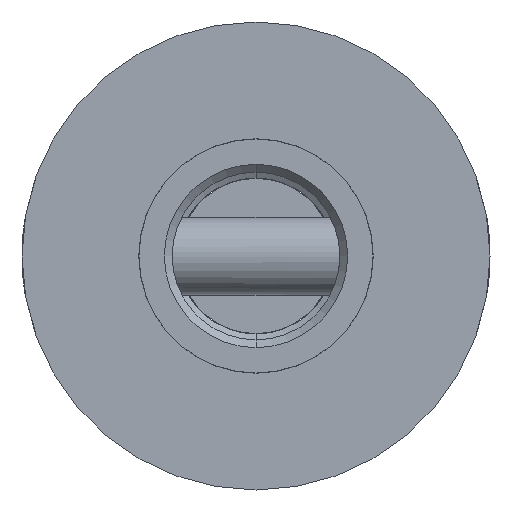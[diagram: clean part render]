
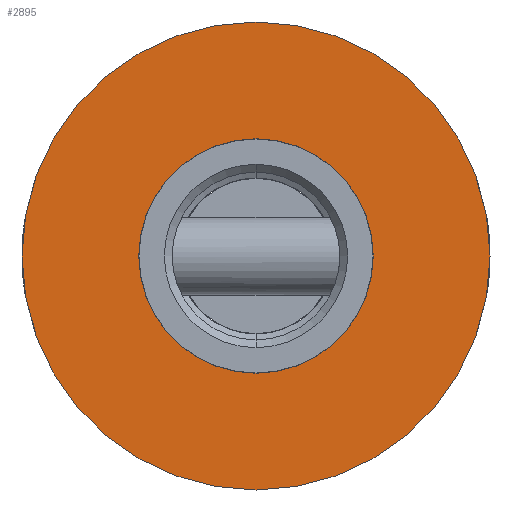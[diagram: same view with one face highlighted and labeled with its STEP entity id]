
A CAD part, front view. The second image highlights one B-rep face of the part: STEP entity #2895.
In plain terms, the highlighted planar face has unit normal (0, -1, 0).
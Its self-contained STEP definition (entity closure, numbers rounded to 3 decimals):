
#44 = CIRCLE ( 'NONE', #2857, 6. ) ;
#54 = CIRCLE ( 'NONE', #3059, 6. ) ;
#87 = VERTEX_POINT ( 'NONE', #462 ) ;
#186 = FACE_OUTER_BOUND ( 'NONE', #778, .T. ) ;
#393 = VERTEX_POINT ( 'NONE', #1814 ) ;
#450 = AXIS2_PLACEMENT_3D ( 'NONE', #1406, #1389, #1137 ) ;
#462 = CARTESIAN_POINT ( 'NONE',  ( 0., -300., -3.005 ) ) ;
#591 = AXIS2_PLACEMENT_3D ( 'NONE', #1711, #2218, #1671 ) ;
#689 = EDGE_LOOP ( 'NONE', ( #1764, #1804 ) ) ;
#778 = EDGE_LOOP ( 'NONE', ( #1686, #1604 ) ) ;
#975 = CARTESIAN_POINT ( 'NONE',  ( 0., -300., 3.005 ) ) ;
#1137 = DIRECTION ( 'NONE',  ( 0., 0., -1. ) ) ;
#1268 = VERTEX_POINT ( 'NONE', #1839 ) ;
#1389 = DIRECTION ( 'NONE',  ( 0., -1., 0. ) ) ;
#1406 = CARTESIAN_POINT ( 'NONE',  ( 0., -300., 0. ) ) ;
#1414 = FACE_BOUND ( 'NONE', #689, .T. ) ;
#1604 = ORIENTED_EDGE ( 'NONE', *, *, #2873, .T. ) ;
#1671 = DIRECTION ( 'NONE',  ( 0., 0., -1. ) ) ;
#1686 = ORIENTED_EDGE ( 'NONE', *, *, #2554, .T. ) ;
#1687 = PLANE ( 'NONE',  #591 ) ;
#1711 = CARTESIAN_POINT ( 'NONE',  ( 0., -300., 0. ) ) ;
#1764 = ORIENTED_EDGE ( 'NONE', *, *, #2334, .F. ) ;
#1802 = CIRCLE ( 'NONE', #2209, 3.005 ) ;
#1804 = ORIENTED_EDGE ( 'NONE', *, *, #2720, .F. ) ;
#1807 = CARTESIAN_POINT ( 'NONE',  ( 0., -300., 0. ) ) ;
#1814 = CARTESIAN_POINT ( 'NONE',  ( 0., -300., -6. ) ) ;
#1839 = CARTESIAN_POINT ( 'NONE',  ( 0., -300., 6. ) ) ;
#1908 = DIRECTION ( 'NONE',  ( 0., 0., -1. ) ) ;
#1933 = DIRECTION ( 'NONE',  ( 0., -1., 0. ) ) ;
#1938 = DIRECTION ( 'NONE',  ( 0., -1., 0. ) ) ;
#1968 = CARTESIAN_POINT ( 'NONE',  ( 0., -300., 0. ) ) ;
#1993 = DIRECTION ( 'NONE',  ( 0., 0., -1. ) ) ;
#2002 = CIRCLE ( 'NONE', #450, 3.005 ) ;
#2196 = VERTEX_POINT ( 'NONE', #975 ) ;
#2209 = AXIS2_PLACEMENT_3D ( 'NONE', #1807, #1938, #1993 ) ;
#2218 = DIRECTION ( 'NONE',  ( 0., -1., 0. ) ) ;
#2334 = EDGE_CURVE ( 'NONE', #87, #2196, #1802, .T. ) ;
#2554 = EDGE_CURVE ( 'NONE', #393, #1268, #54, .T. ) ;
#2720 = EDGE_CURVE ( 'NONE', #2196, #87, #2002, .T. ) ;
#2857 = AXIS2_PLACEMENT_3D ( 'NONE', #1968, #1933, #1908 ) ;
#2873 = EDGE_CURVE ( 'NONE', #1268, #393, #44, .T. ) ;
#2895 = ADVANCED_FACE ( 'NONE', ( #1414, #186 ), #1687, .T. ) ;
#3059 = AXIS2_PLACEMENT_3D ( 'NONE', #3208, #3215, #3226 ) ;
#3208 = CARTESIAN_POINT ( 'NONE',  ( 0., -300., 0. ) ) ;
#3215 = DIRECTION ( 'NONE',  ( 0., -1., 0. ) ) ;
#3226 = DIRECTION ( 'NONE',  ( 0., 0., -1. ) ) ;
